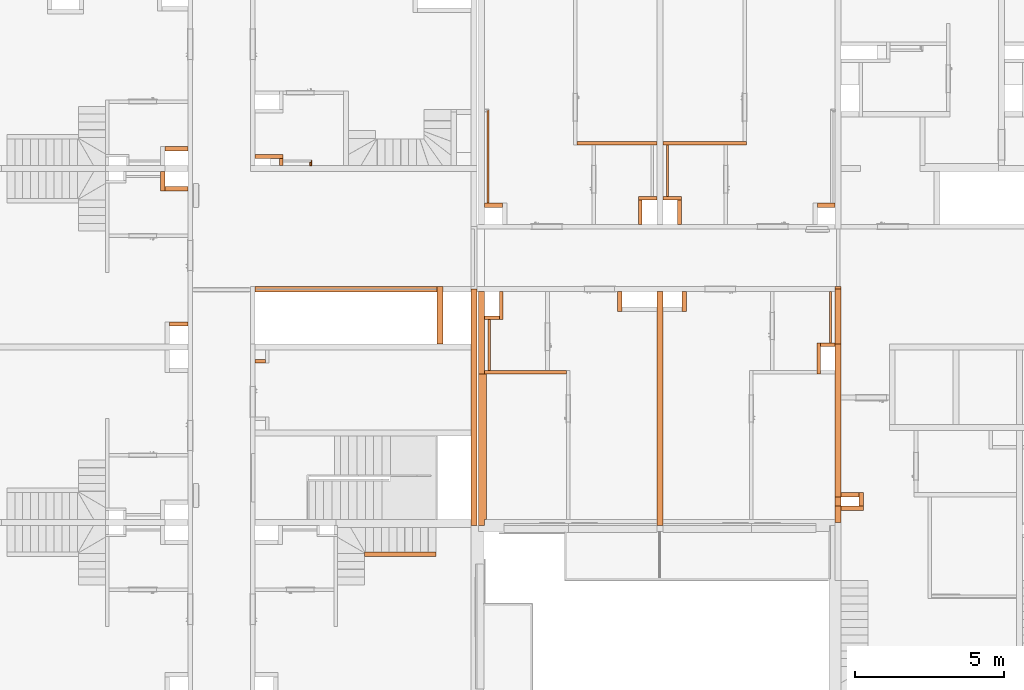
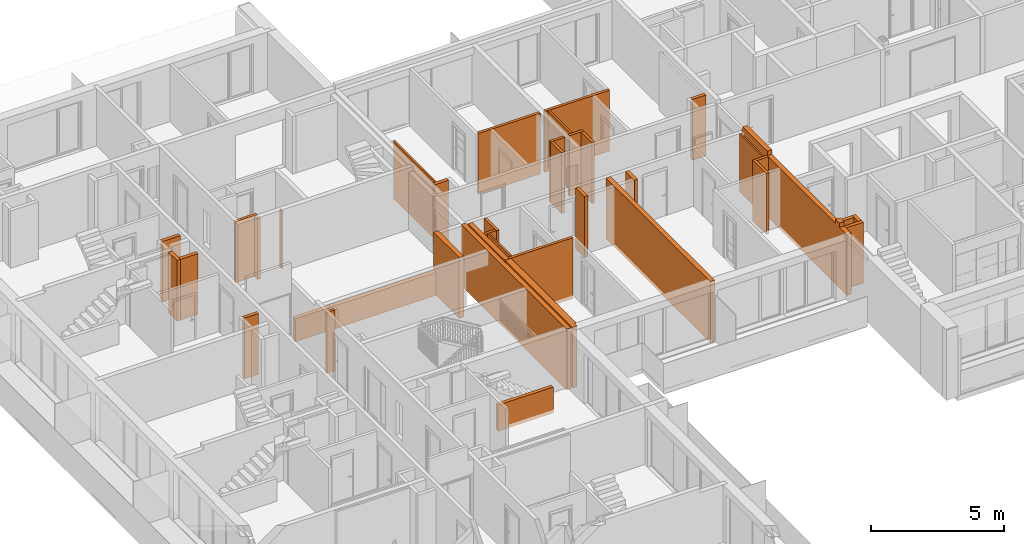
# One storey, part 49 of 61: 38 proxies.
"""IFC2X3 building model written with IfcOpenShell, lengths in millimetres."""

from ifc_helpers import new_model, entity, si_unit, converted_unit, derived_unit, money_unit, direction, frame, origin_with_axes, place, context, subcontext, project, spatial, faceted_brep, material, material_list, type_object, element, save


model = new_model("IFC2X3")

# Units and contexts
model_context = context("Model", 3, precision=0.01, world=origin_with_axes(), true_north=direction((0.34421633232, 0.938890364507)))
body_context = subcontext(model_context, "Body", "Model", "MODEL_VIEW")
ifc_project = project(units=[si_unit("LENGTHUNIT", "METRE", prefix="MILLI"), si_unit("AREAUNIT", "SQUARE_METRE"), si_unit("VOLUMEUNIT", "CUBIC_METRE"), converted_unit("PLANEANGLEUNIT", "DEGREE", entity("IfcPlaneAngleMeasure", 0.0174532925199), si_unit("PLANEANGLEUNIT", "RADIAN"), dimensions=[0, 0, 0, 0, 0, 0, 0]), si_unit("SOLIDANGLEUNIT", "STERADIAN"), money_unit("USD"), converted_unit("TIMEUNIT", "Year", entity("IfcTimeMeasure", 31556926.0), si_unit("TIMEUNIT", "SECOND"), dimensions=[0, 0, 1, 0, 0, 0, 0]), si_unit("MASSUNIT", "GRAM", prefix="KILO"), si_unit("THERMODYNAMICTEMPERATUREUNIT", "DEGREE_CELSIUS"), si_unit("LUMINOUSINTENSITYUNIT", "LUMEN"), si_unit("ENERGYUNIT", "JOULE", prefix="MEGA"), derived_unit("THERMALCONDUCTANCEUNIT", [(si_unit("POWERUNIT", "WATT"), 1), (si_unit("LENGTHUNIT", "METRE"), -1), (si_unit("THERMODYNAMICTEMPERATUREUNIT", "KELVIN"), -1)]), derived_unit("SPECIFICHEATCAPACITYUNIT", [(si_unit("ENERGYUNIT", "JOULE"), 1), (si_unit("MASSUNIT", "GRAM", prefix="KILO"), -1), (si_unit("THERMODYNAMICTEMPERATUREUNIT", "KELVIN"), -1)]), derived_unit("MASSDENSITYUNIT", [(si_unit("MASSUNIT", "GRAM", prefix="KILO"), 1), (si_unit("VOLUMEUNIT", "CUBIC_METRE"), -1)])], contexts=[model_context])

# Site, building, storey
site_placement = place(None, origin_with_axes())
site = spatial("IfcSite", under=ifc_project, at=site_placement, Name="USTRONIE MORSKIE", CompositionType="ELEMENT")
building_placement = place(site_placement, origin_with_axes())
building = spatial("IfcBuilding", under=site, at=building_placement, Name="Budynek", CompositionType="ELEMENT")
storey_placement = place(building_placement, frame((0.0, 0.0, 13000.0), z_axis=(0.0, 0.0, 1.0), x_axis=(1.0, 0.0, 0.0)))
storey = spatial("IfcBuildingStorey", under=building, at=storey_placement, Name="PIĘTRO 4", CompositionType="ELEMENT", Elevation=13000.0)

# Proxies
ifc_material_1 = material(Name="Bloczki silikatowe")
building_element_proxy_type_1 = type_object("IfcBuildingElementProxyType", Name="Bloczki silikatowe 120", PredefinedType="NOTDEFINED")
proxy_1_placement = place(storey_placement, frame((378717.914575, 731951.199132, -160.0), z_axis=(0.0, 0.0, 1.0), x_axis=(3.11484010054e-05, 0.999999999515, 0.0)))
element("IfcBuildingElementProxy", 1, at=proxy_1_placement, inside=storey, type_object=building_element_proxy_type_1, material=ifc_material_1, Name="SW-04", context=body_context, shape_type="Brep", body=[
    faceted_brep([(979.997380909, 0.0, 2800.0), (979.989905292, 120.0, 2800.0), (-60.0037378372, 120.0, 2800.0), (-60.000000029, 0.0, 2800.0), (979.997380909, 0.0, 0.0), (979.989905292, 120.0, 0.0), (-60.0037378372, 120.0, 0.0), (-60.000000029, 0.0, 0.0)], [[[0, 1, 2, 3]], [[1, 0, 4, 5]], [[1, 5, 6, 2]], [[7, 3, 2, 6]], [[4, 0, 3, 7]], [[5, 4, 7, 6]]]),
])
proxy_2_placement = place(storey_placement, frame((372717.920919, 737751.199937, -160.0), z_axis=(0.0, 0.0, 1.0), x_axis=(0.0, -1.0, 0.0)))
element("IfcBuildingElementProxy", 2, at=proxy_2_placement, inside=storey, type_object=building_element_proxy_type_1, material=ifc_material_1, Name="SW-04", context=body_context, shape_type="Brep", body=[
    faceted_brep([(820.00090117, -120.0, 2800.0), (820.00090117, 0.0, 2800.0), (0.0, 0.0, 2800.0), (0.0, -120.0, 2800.0), (820.00090117, -120.0, 0.0), (820.00090117, 0.0, 0.0), (0.0, 0.0, 0.0), (0.0, -120.0, 0.0)], [[[0, 1, 2, 3]], [[1, 0, 4, 5]], [[1, 5, 6, 2]], [[7, 3, 2, 6]], [[4, 0, 3, 7]], [[5, 4, 7, 6]]]),
])
proxy_3_placement = place(storey_placement, frame((359617.920919, 739211.199036, -160.0), z_axis=(0.0, 0.0, 1.0), x_axis=(1.0, 0.0, 0.0)))
element("IfcBuildingElementProxy", 3, at=proxy_3_placement, inside=storey, type_object=building_element_proxy_type_1, material=ifc_material_1, Name="Ściana-009", context=body_context, shape_type="Brep", body=[
    faceted_brep([(1020.00179464, -59.9999999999, 2800.0), (1020.00179464, 59.9999999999, 2800.0), (80.0, 59.9999999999, 2800.0), (80.0, -59.9999999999, 2800.0), (1020.00179464, -59.9999999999, 0.0), (1020.00179464, 59.9999999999, 0.0), (80.0, 59.9999999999, 0.0), (80.0, -59.9999999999, 0.0)], [[[0, 1, 2, 3]], [[1, 0, 4, 5]], [[1, 5, 6, 2]], [[7, 3, 2, 6]], [[4, 0, 3, 7]], [[5, 4, 7, 6]]]),
])
proxy_4_placement = place(storey_placement, frame((373317.920919, 739651.199937, -160.0), z_axis=(0.0, 0.0, 1.0), x_axis=(-1.0, 0.0, 0.0)))
element("IfcBuildingElementProxy", 4, at=proxy_4_placement, inside=storey, type_object=building_element_proxy_type_1, material=ifc_material_1, Name="SW-04", context=body_context, shape_type="Brep", body=[
    faceted_brep([(2790.00713284, -59.9999999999, 2800.0), (2790.00713284, 59.9999999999, 2800.0), (100.0, 59.9999999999, 2800.0), (100.0, -59.9999999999, 2800.0), (2790.00713284, -59.9999999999, 0.0), (2790.00713284, 59.9999999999, 0.0), (100.0, 59.9999999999, 0.0), (100.0, -59.9999999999, 0.0)], [[[0, 1, 2, 3]], [[1, 0, 4, 5]], [[1, 5, 6, 2]], [[7, 3, 2, 6]], [[4, 0, 3, 7]], [[5, 4, 7, 6]]]),
])
proxy_5_placement = place(storey_placement, frame((376167.928052, 739651.199937, -160.0), z_axis=(0.0, 0.0, 1.0), x_axis=(-1.0, 0.0, 0.0)))
element("IfcBuildingElementProxy", 5, at=proxy_5_placement, inside=storey, type_object=building_element_proxy_type_1, material=ifc_material_1, Name="SW-04", context=body_context, shape_type="Brep", body=[
    faceted_brep([(-60.0, -59.9999999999, 0.0), (2750.00713284, -59.9999999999, 0.0), (2750.00713284, -59.9999999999, 2800.0), (-60.0, -59.9999999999, 2800.0), (-60.0, 59.9999999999, 0.0), (2750.00713284, 59.9999999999, 0.0), (2750.00713284, 59.9999999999, 2800.0), (-60.0, 59.9999999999, 2800.0)], [[[0, 1, 2, 3]], [[4, 5, 1, 0]], [[5, 6, 2, 1]], [[3, 2, 6, 7]], [[0, 3, 7, 4]], [[7, 6, 5, 4]]]),
])
proxy_6_placement = place(storey_placement, frame((360577.922714, 739211.199036, -160.0), z_axis=(0.0, 0.0, 1.0), x_axis=(0.0, -1.0, 0.0)))
element("IfcBuildingElementProxy", 6, at=proxy_6_placement, inside=storey, type_object=building_element_proxy_type_1, material=ifc_material_1, Name="Ściana-009", context=body_context, shape_type="Brep", body=[
    faceted_brep([(310.0, -60.0, 2800.0), (310.0, 60.0, 2800.0), (59.9999999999, 60.0, 2800.0), (59.9999999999, -60.0, 2800.0), (310.0, -60.0, 0.0), (310.0, 60.0, 0.0), (59.9999999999, 60.0, 0.0), (59.9999999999, -60.0, 0.0)], [[[0, 1, 2, 3]], [[1, 0, 4, 5]], [[1, 5, 6, 2]], [[7, 3, 2, 6]], [[4, 0, 3, 7]], [[5, 4, 7, 6]]]),
])
proxy_7_placement = place(storey_placement, frame((373917.920919, 737751.199937, -160.0), z_axis=(0.0, 0.0, 1.0), x_axis=(0.0, -1.0, 0.0)))
element("IfcBuildingElementProxy", 7, at=proxy_7_placement, inside=storey, type_object=building_element_proxy_type_1, material=ifc_material_1, Name="SW-04", context=body_context, shape_type="Brep", body=[
    faceted_brep([(820.00090117, 120.0, 0.0), (820.00090117, 0.0, 0.0), (0.0, 0.0, 0.0), (0.0, 120.0, 0.0), (820.00090117, 120.0, 2800.0), (820.00090117, 0.0, 2800.0), (0.0, 0.0, 2800.0), (0.0, 120.0, 2800.0)], [[[0, 1, 2, 3]], [[1, 0, 4, 5]], [[1, 5, 6, 2]], [[7, 3, 2, 6]], [[4, 0, 3, 7]], [[5, 4, 7, 6]]]),
])
proxy_8_placement = place(storey_placement, frame((373317.920919, 737751.199937, -160.0), z_axis=(0.0, 0.0, 1.0), x_axis=(-1.0, 0.0, 0.0)))
element("IfcBuildingElementProxy", 8, at=proxy_8_placement, inside=storey, type_object=building_element_proxy_type_1, material=ifc_material_1, Name="SW-04", context=body_context, shape_type="Brep", body=[
    faceted_brep([(720.0, 0.0, 2800.0), (100.0, 0.0, 2800.0), (100.0, -120.0, 2800.0), (720.0, -120.0, 2800.0), (720.0, 0.0, 0.0), (100.0, 0.0, 0.0), (100.0, -120.0, 0.0), (720.0, -120.0, 0.0)], [[[0, 1, 2, 3]], [[4, 5, 1, 0]], [[5, 6, 2, 1]], [[3, 2, 6, 7]], [[7, 4, 0, 3]], [[7, 6, 5, 4]]]),
])
proxy_9_placement = place(storey_placement, frame((367317.920919, 731951.199132, -160.0), z_axis=(0.0, 0.0, 1.0), x_axis=(1.0, 0.0, 0.0)))
element("IfcBuildingElementProxy", 9, at=proxy_9_placement, inside=storey, type_object=building_element_proxy_type_1, material=ifc_material_1, Name="SW-04", context=body_context, shape_type="Brep", body=[
    faceted_brep([(2860.01935038, -59.9999999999, 2800.0), (2860.01935038, 59.9999999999, 2800.0), (99.9999999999, 59.9999999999, 2800.0), (99.9999999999, -59.9999999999, 2800.0), (2860.01935038, -59.9999999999, 0.0), (2860.01935038, 59.9999999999, 0.0), (99.9999999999, 59.9999999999, 0.0), (99.9999999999, -59.9999999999, 0.0)], [[[0, 1, 2, 3]], [[1, 0, 4, 5]], [[1, 5, 6, 2]], [[7, 3, 2, 6]], [[4, 0, 3, 7]], [[5, 4, 7, 6]]]),
])
proxy_10_placement = place(storey_placement, frame((373317.920919, 737751.199937, -160.0), z_axis=(0.0, 0.0, 1.0), x_axis=(1.0, 0.0, 0.0)))
element("IfcBuildingElementProxy", 10, at=proxy_10_placement, inside=storey, type_object=building_element_proxy_type_1, material=ifc_material_1, Name="SW-04", context=body_context, shape_type="Brep", body=[
    faceted_brep([(720.0, 120.0, 0.0), (720.0, 0.0, 0.0), (100.0, 0.0, 0.0), (100.0, 120.0, 0.0), (720.0, 120.0, 2800.0), (720.0, 0.0, 2800.0), (100.0, 0.0, 2800.0), (100.0, 120.0, 2800.0)], [[[0, 1, 2, 3]], [[1, 0, 4, 5]], [[1, 5, 6, 2]], [[7, 3, 2, 6]], [[4, 0, 3, 7]], [[5, 4, 7, 6]]]),
])
proxy_11_placement = place(storey_placement, frame((367917.928509, 734751.199036, -160.0), z_axis=(0.0, 0.0, 1.0), x_axis=(-3.11484010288e-05, -0.999999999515, 0.0)))
element("IfcBuildingElementProxy", 11, at=proxy_11_placement, inside=storey, type_object=building_element_proxy_type_1, material=ifc_material_1, Name="SW-04", context=body_context, shape_type="Brep", body=[
    faceted_brep([(1019.99738093, 0.0, 2800.0), (1019.98990531, 120.0, 2800.0), (79.9962622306, 120.0, 2800.0), (80.0000000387, 0.0, 2800.0), (1019.99738093, 0.0, 0.0), (1019.98990531, 120.0, 0.0), (79.9962622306, 120.0, 0.0), (80.0000000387, 0.0, 0.0)], [[[0, 1, 2, 3]], [[1, 0, 4, 5]], [[1, 5, 6, 2]], [[7, 3, 2, 6]], [[4, 0, 3, 7]], [[5, 4, 7, 6]]]),
])
for number, where, z_axis, x_axis, name in (
    (12, (367317.920919, 733851.182968, -160.0), (0.0, 0.0, 1.0), (0.999999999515, 3.11484020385e-05, 0.0), "SW-04"),
    (13, (379317.920919, 732811.215201, -160.0), (0.0, 0.0, 1.0), (-0.999999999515, -3.11484020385e-05, 0.0), "SW-04"),
):
    element("IfcBuildingElementProxy", number, at=place(storey_placement, frame(where, z_axis=z_axis, x_axis=x_axis)), inside=storey, type_object=building_element_proxy_type_1, material=ifc_material_1, Name=name, context=body_context, shape_type="Brep", body=[
        faceted_brep([(599.979556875, 1.13686837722e-10, 0.0), (599.972081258, -120.0, 0.0), (99.9962622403, -120.0, 0.0), (100.000000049, 1.13686837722e-10, 0.0), (599.979556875, 1.13686837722e-10, 2800.0), (599.972081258, -120.0, 2800.0), (99.9962622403, -120.0, 2800.0), (100.000000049, 1.13686837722e-10, 2800.0)], [[[0, 1, 2, 3]], [[1, 0, 4, 5]], [[1, 5, 6, 2]], [[7, 3, 2, 6]], [[4, 0, 3, 7]], [[5, 4, 7, 6]]]),
    ])
proxy_12_placement = place(storey_placement, frame((360047.920919, 732381.198997, -160.0), z_axis=(0.0, 0.0, 1.0), x_axis=(-1.0, 0.0, 0.0)))
element("IfcBuildingElementProxy", 14, at=proxy_12_placement, inside=storey, type_object=building_element_proxy_type_1, material=ifc_material_1, Name="SW-04", context=body_context, shape_type="Brep", body=[
    faceted_brep([(350.0, 120.0, 0.0), (350.0, 0.0, 0.0), (0.0, 0.0, 0.0), (0.0, 120.0, 0.0), (350.0, 120.0, 2800.0), (350.0, 0.0, 2800.0), (0.0, 0.0, 2800.0), (0.0, 120.0, 2800.0)], [[[0, 1, 2, 3]], [[1, 0, 4, 5]], [[1, 5, 6, 2]], [[7, 3, 2, 6]], [[4, 0, 3, 7]], [[5, 4, 7, 6]]]),
])
building_element_proxy_type_2 = type_object("IfcBuildingElementProxyType", Name="Bloczki silikatowe 180", PredefinedType="NOTDEFINED")
proxy_13_placement = place(storey_placement, frame((365817.926125, 734741.198985, -160.0), z_axis=(0.0, 0.0, 1.0), x_axis=(-1.0, 0.0, 0.0)))
element("IfcBuildingElementProxy", 15, at=proxy_13_placement, inside=storey, type_object=building_element_proxy_type_2, material=ifc_material_1, Name="SW-02", context=body_context, shape_type="Brep", body=[
    faceted_brep([(6120.00520575, 90.0, 0.0), (6120.00520575, -90.0, 0.0), (0.0, -90.0, 0.0), (0.0, 90.0, 0.0), (6120.00520575, 90.0, 1060.0), (6120.00520575, -90.0, 1060.0), (0.0, -90.0, 1060.0), (0.0, 90.0, 1060.0)], [[[0, 1, 2, 3]], [[1, 0, 4, 5]], [[1, 5, 6, 2]], [[7, 3, 2, 6]], [[4, 0, 3, 7]], [[5, 4, 7, 6]]]),
])
ifc_material_2 = material(Name="-Pustka powietrzna")
ifc_material_3 = material(Name="Płyta GK")
ifc_material_list_1 = material_list([ifc_material_2, ifc_material_3, ifc_material_3])
building_element_proxy_type_3 = type_object("IfcBuildingElementProxyType", Name="330-SD GK 2-warstwy 75", PredefinedType="NOTDEFINED")
proxy_14_placement = place(storey_placement, frame((367547.898487, 737501.202288, -180.0), z_axis=(0.0, 0.0, 1.0), x_axis=(1.16660687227e-07, 1.0, 0.0)))
element("IfcBuildingElementProxy", 16, at=proxy_14_placement, inside=storey, type_object=building_element_proxy_type_3, material=ifc_material_list_1, Name="Ściana-009", context=body_context, shape_type="Brep", body=[
    faceted_brep([(150.0, 0.0, 180.0), (3270.0, 0.0, 180.0), (3270.0, 0.0, 2820.0), (150.0, 0.0, 2820.0), (3269.99999417, 50.0000000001, 180.0), (149.999994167, 50.0000000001, 180.0), (3269.99999417, 50.0000000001, 2820.0), (149.999994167, 50.0000000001, 2820.0)], [[[0, 1, 2, 3]], [[4, 1, 0, 5]], [[1, 4, 6, 2]], [[6, 7, 3, 2]], [[5, 0, 3, 7]], [[4, 5, 7, 6]]]),
    faceted_brep([(150.000001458, -12.4999999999, 165.0), (3282.50000146, -12.4999999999, 165.0), (3282.50000146, -12.4999999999, 2820.0), (150.000001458, -12.4999999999, 2820.0), (3282.50000001, 0.0, 165.0), (150.0, 1.13686837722e-10, 165.0), (3282.50000001, 0.0, 2820.0), (150.0, 0.0, 2820.0)], [[[0, 1, 2, 3]], [[4, 1, 0, 5]], [[1, 4, 6, 2]], [[6, 7, 3, 2]], [[5, 0, 3, 7]], [[4, 5, 7, 6]]]),
    faceted_brep([(150.000002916, -24.9999999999, 165.0), (3295.00000292, -25.0, 165.0), (3295.00000292, -25.0, 2820.0), (150.000002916, -24.9999999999, 2820.0), (3295.00000146, -12.4999999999, 165.0), (150.000001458, -12.4999999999, 165.0), (3295.00000146, -12.4999999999, 2820.0), (150.000001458, -12.4999999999, 2820.0)], [[[0, 1, 2, 3]], [[4, 1, 0, 5]], [[1, 4, 6, 2]], [[6, 7, 3, 2]], [[5, 0, 3, 7]], [[4, 5, 7, 6]]]),
])
ifc_material_list_2 = material_list([ifc_material_3, ifc_material_3, ifc_material_2])
proxy_15_placement = place(storey_placement, frame((379072.933272, 732811.206636, -160.0), z_axis=(0.0, 0.0, 1.0), x_axis=(0.0, 1.0, 0.0)))
element("IfcBuildingElementProxy", 17, at=proxy_15_placement, inside=storey, type_object=building_element_proxy_type_3, material=ifc_material_list_2, Name="Ściana-009", context=body_context, shape_type="Brep", body=[
    faceted_brep([(119.999766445, 37.5, 145.0), (1859.99240044, 37.5, 145.0), (1859.99240044, 37.5, 2800.0), (119.999766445, 37.5, 2800.0), (1859.99240044, 50.0, 145.0), (119.99937709, 50.0, 145.0), (1859.99240044, 50.0, 2800.0), (119.99937709, 50.0, 2800.0)], [[[0, 1, 2, 3]], [[4, 1, 0, 5]], [[1, 4, 6, 2]], [[2, 6, 7, 3]], [[5, 0, 3, 7]], [[4, 5, 7, 6]]]),
    faceted_brep([(120.0001558, 25.0, 145.0), (1859.99240044, 25.0, 145.0), (1859.99240044, 25.0, 2800.0), (120.0001558, 25.0, 2800.0), (1859.99240044, 37.5, 145.0), (119.999766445, 37.5, 145.0), (1859.99240044, 37.5, 2800.0), (119.999766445, 37.5, 2800.0)], [[[0, 1, 2, 3]], [[4, 1, 0, 5]], [[1, 4, 6, 2]], [[2, 6, 7, 3]], [[5, 0, 3, 7]], [[4, 5, 7, 6]]]),
    faceted_brep([(120.00171322, -25.0, 160.0), (1859.99240044, -25.0, 160.0), (1859.99240044, -25.0, 2800.0), (120.00171322, -25.0, 2800.0), (1859.99240044, 25.0, 160.0), (120.0001558, 25.0, 160.0), (1859.99240044, 25.0, 2800.0), (120.0001558, 25.0, 2800.0)], [[[0, 1, 2, 3]], [[4, 1, 0, 5]], [[1, 4, 6, 2]], [[2, 6, 7, 3]], [[5, 0, 3, 7]], [[4, 5, 7, 6]]]),
])
proxy_16_placement = place(storey_placement, frame((373562.908566, 739651.199937, -180.0), z_axis=(0.0, 0.0, 1.0), x_axis=(0.0, -1.0, 0.0)))
element("IfcBuildingElementProxy", 18, at=proxy_16_placement, inside=storey, type_object=building_element_proxy_type_3, material=ifc_material_list_2, Name="Ściana-009", context=body_context, shape_type="Brep", body=[
    faceted_brep([(1780.0, 50.0, 165.0), (59.9999999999, 50.0, 165.0), (59.9999999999, 50.0, 2820.0), (1780.0, 50.0, 2820.0), (59.9999999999, 37.5, 165.0), (1780.0, 37.5, 165.0), (59.9999999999, 37.5, 2820.0), (1780.0, 37.5, 2820.0)], [[[0, 1, 2, 3]], [[4, 1, 0, 5]], [[1, 4, 6, 2]], [[6, 7, 3, 2]], [[5, 0, 3, 7]], [[4, 5, 7, 6]]]),
    faceted_brep([(1780.0, 37.5, 165.0), (59.9999999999, 37.5, 165.0), (59.9999999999, 37.5, 2820.0), (1780.0, 37.5, 2820.0), (59.9999999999, 25.0, 165.0), (1780.0, 25.0, 165.0), (59.9999999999, 25.0, 2820.0), (1780.0, 25.0, 2820.0)], [[[0, 1, 2, 3]], [[4, 1, 0, 5]], [[1, 4, 6, 2]], [[6, 7, 3, 2]], [[5, 0, 3, 7]], [[4, 5, 7, 6]]]),
    faceted_brep([(1780.0, 25.0, 180.0), (59.9999999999, 25.0, 180.0), (59.9999999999, 25.0, 2820.0), (1780.0, 25.0, 2820.0), (59.9999999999, -25.0, 180.0), (1780.0, -25.0, 180.0), (59.9999999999, -25.0, 2820.0), (1780.0, -25.0, 2820.0)], [[[0, 1, 2, 3]], [[4, 1, 0, 5]], [[1, 4, 6, 2]], [[6, 7, 3, 2]], [[5, 0, 3, 7]], [[4, 5, 7, 6]]]),
])
proxy_17_placement = place(storey_placement, frame((367562.908566, 733851.191533, -160.0), z_axis=(0.0, 0.0, 1.0), x_axis=(0.0, -1.0, 0.0)))
element("IfcBuildingElementProxy", 19, at=proxy_17_placement, inside=storey, type_object=building_element_proxy_type_3, material=ifc_material_list_2, Name="Ściana-009", context=body_context, shape_type="Brep", body=[
    faceted_brep([(1839.99240044, 50.0, 145.0), (119.99937709, 50.0, 145.0), (119.99937709, 50.0, 2800.0), (1839.99240044, 50.0, 2800.0), (119.999766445, 37.5, 145.0), (1839.99240044, 37.5, 145.0), (119.999766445, 37.5, 2800.0), (1839.99240044, 37.5, 2800.0)], [[[0, 1, 2, 3]], [[4, 1, 0, 5]], [[1, 4, 6, 2]], [[7, 3, 2, 6]], [[5, 0, 3, 7]], [[4, 5, 7, 6]]]),
    faceted_brep([(1839.99240044, 37.5, 145.0), (119.999766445, 37.5, 145.0), (119.999766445, 37.5, 2800.0), (1839.99240044, 37.5, 2800.0), (120.0001558, 25.0, 145.0), (1839.99240044, 25.0, 145.0), (120.0001558, 25.0, 2800.0), (1839.99240044, 25.0, 2800.0)], [[[0, 1, 2, 3]], [[4, 1, 0, 5]], [[1, 4, 6, 2]], [[7, 3, 2, 6]], [[5, 0, 3, 7]], [[4, 5, 7, 6]]]),
    faceted_brep([(1839.99240044, 25.0, 160.0), (120.0001558, 25.0, 160.0), (120.0001558, 25.0, 2800.0), (1839.99240044, 25.0, 2800.0), (120.00171322, -25.0, 160.0), (1839.99240044, -25.0, 160.0), (120.00171322, -25.0, 2800.0), (1839.99240044, -25.0, 2800.0)], [[[0, 1, 2, 3]], [[4, 1, 0, 5]], [[1, 4, 6, 2]], [[7, 3, 2, 6]], [[5, 0, 3, 7]], [[4, 5, 7, 6]]]),
])
proxy_18_placement = place(storey_placement, frame((361587.922714, 739071.198488, -180.0), z_axis=(0.0, 0.0, 1.0), x_axis=(0.0, -1.0, 0.0)))
element("IfcBuildingElementProxy", 20, at=proxy_18_placement, inside=storey, type_object=building_element_proxy_type_3, material=ifc_material_list_2, Name="Ściana-009", context=body_context, shape_type="Brep", body=[
    faceted_brep([(169.99945214, 25.0, 165.0), (-12.5, 25.0, 165.0), (-12.5, 25.0, 2820.0), (169.99945214, 25.0, 2820.0), (-12.5, 12.5, 165.0), (169.99945214, 12.5, 165.0), (-12.5, 12.5, 2820.0), (169.99945214, 12.5, 2820.0)], [[[0, 1, 2, 3]], [[4, 1, 0, 5]], [[1, 4, 6, 2]], [[7, 3, 2, 6]], [[5, 0, 3, 7]], [[4, 5, 7, 6]]]),
    faceted_brep([(169.99945214, 12.5, 165.0), (0.0, 12.5, 165.0), (0.0, 12.5, 2820.0), (169.99945214, 12.5, 2820.0), (0.0, 0.0, 165.0), (169.99945214, 0.0, 165.0), (0.0, 0.0, 2820.0), (169.99945214, 0.0, 2820.0)], [[[0, 1, 2, 3]], [[4, 1, 0, 5]], [[1, 4, 6, 2]], [[7, 3, 2, 6]], [[5, 0, 3, 7]], [[4, 5, 7, 6]]]),
    faceted_brep([(169.99945214, 0.0, 180.0), (50.0, 0.0, 180.0), (50.0, 0.0, 2820.0), (169.99945214, 0.0, 2820.0), (50.0, -50.0, 180.0), (169.99945214, -50.0, 180.0), (50.0, -50.0, 2820.0), (169.99945214, -50.0, 2820.0)], [[[0, 1, 2, 3]], [[4, 1, 0, 5]], [[1, 4, 6, 2]], [[7, 3, 2, 6]], [[5, 0, 3, 7]], [[4, 5, 7, 6]]]),
])
building_element_proxy_type_4 = type_object("IfcBuildingElementProxyType", Name="Bloczki silikatowe 150", PredefinedType="NOTDEFINED")
proxy_19_placement = place(storey_placement, frame((356817.920919, 733501.199036, -160.0), z_axis=(0.0, 0.0, 1.0), x_axis=(1.0, 0.0, 0.0)))
element("IfcBuildingElementProxy", 21, at=proxy_19_placement, inside=storey, type_object=building_element_proxy_type_4, material=ifc_material_1, Name="SW-03", context=body_context, shape_type="Brep", body=[
    faceted_brep([(620.0, 150.0, 0.0), (620.0, 0.0, 0.0), (0.0, 0.0, 0.0), (0.0, 150.0, 0.0), (620.0, 150.0, 2800.0), (620.0, 0.0, 2800.0), (0.0, 0.0, 2800.0), (0.0, 150.0, 2800.0)], [[[0, 1, 2, 3]], [[1, 0, 4, 5]], [[1, 5, 6, 2]], [[7, 3, 2, 6]], [[4, 0, 3, 7]], [[5, 4, 7, 6]]]),
])
proxy_20_placement = place(storey_placement, frame((378617.937739, 737501.202288, -160.0), z_axis=(0.0, 0.0, 1.0), x_axis=(1.0, 0.0, 0.0)))
element("IfcBuildingElementProxy", 22, at=proxy_20_placement, inside=storey, type_object=building_element_proxy_type_4, material=ifc_material_1, Name="SW-03", context=body_context, shape_type="Brep", body=[
    faceted_brep([(599.983179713, 0.0, 2800.0), (599.983179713, 150.0, 2800.0), (0.0, 150.0, 2800.0), (0.0, 0.0, 2800.0), (599.983179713, 0.0, 0.0), (599.983179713, 150.0, 0.0), (0.0, 150.0, 0.0), (0.0, 0.0, 0.0)], [[[0, 1, 2, 3]], [[1, 0, 4, 5]], [[1, 5, 6, 2]], [[7, 3, 2, 6]], [[4, 0, 3, 7]], [[5, 4, 7, 6]]]),
])
proxy_21_placement = place(storey_placement, frame((356592.920018, 738126.197761, -160.0), z_axis=(0.0, 0.0, 1.0), x_axis=(1.0, 0.0, 0.0)))
element("IfcBuildingElementProxy", 23, at=proxy_21_placement, inside=storey, type_object=building_element_proxy_type_4, material=ifc_material_1, Name="SW-03", context=body_context, shape_type="Brep", body=[
    faceted_brep([(845.00090117, -75.0, 2800.0), (845.00090117, 75.0, 2800.0), (75.0, 75.0, 2800.0), (75.0, -75.0, 2800.0), (845.00090117, -75.0, 0.0), (845.00090117, 75.0, 0.0), (75.0, 75.0, 0.0), (75.0, -75.0, 0.0)], [[[0, 1, 2, 3]], [[1, 0, 4, 5]], [[1, 5, 6, 2]], [[7, 3, 2, 6]], [[4, 0, 3, 7]], [[5, 4, 7, 6]]]),
])
proxy_22_placement = place(storey_placement, frame((380017.92182, 727826.199036, -160.0), z_axis=(0.0, 0.0, 1.0), x_axis=(-1.0, 0.0, 0.0)))
element("IfcBuildingElementProxy", 24, at=proxy_22_placement, inside=storey, type_object=building_element_proxy_type_4, material=ifc_material_1, Name="SW-03", context=body_context, shape_type="Brep", body=[
    faceted_brep([(600.00090117, 75.0, 0.0), (600.00090117, -75.0, 0.0), (0.0, -75.0, 0.0), (0.0, 75.0, 0.0), (600.00090117, 75.0, 2800.0), (600.00090117, -75.0, 2800.0), (0.0, -75.0, 2800.0), (0.0, 75.0, 2800.0)], [[[0, 1, 2, 3]], [[1, 0, 4, 5]], [[1, 5, 6, 2]], [[7, 3, 2, 6]], [[4, 0, 3, 7]], [[5, 4, 7, 6]]]),
])
proxy_23_placement = place(storey_placement, frame((380017.92182, 727451.199036, -160.0), z_axis=(0.0, 0.0, 1.0), x_axis=(0.0, 1.0, 0.0)))
element("IfcBuildingElementProxy", 25, at=proxy_23_placement, inside=storey, type_object=building_element_proxy_type_4, material=ifc_material_1, Name="SW-03", context=body_context, shape_type="Brep", body=[
    faceted_brep([(450.0, -150.0, 2800.0), (450.0, 0.0, 2800.0), (0.0, 0.0, 2800.0), (0.0, -150.0, 2800.0), (450.0, -150.0, 0.0), (450.0, 0.0, 0.0), (0.0, 0.0, 0.0), (0.0, -150.0, 0.0)], [[[0, 1, 2, 3]], [[1, 0, 4, 5]], [[1, 5, 6, 2]], [[7, 3, 2, 6]], [[4, 0, 3, 7]], [[5, 4, 7, 6]]]),
])
proxy_24_placement = place(storey_placement, frame((379317.920919, 727451.199036, -160.0), z_axis=(0.0, 0.0, 1.0), x_axis=(1.0, 0.0, 0.0)))
element("IfcBuildingElementProxy", 26, at=proxy_24_placement, inside=storey, type_object=building_element_proxy_type_4, material=ifc_material_1, Name="SW-03", context=body_context, shape_type="Brep", body=[
    faceted_brep([(850.00090117, -150.0, 2800.0), (850.00090117, 0.0, 2800.0), (100.0, 0.0, 2800.0), (100.0, -150.0, 2800.0), (850.00090117, -150.0, 0.0), (850.00090117, 0.0, 0.0), (100.0, 0.0, 0.0), (100.0, -150.0, 0.0)], [[[0, 1, 2, 3]], [[1, 0, 4, 5]], [[1, 5, 6, 2]], [[7, 3, 2, 6]], [[4, 0, 3, 7]], [[5, 4, 7, 6]]]),
])
proxy_25_placement = place(storey_placement, frame((363377.920919, 725826.243277, -160.0), z_axis=(0.0, 0.0, 1.0), x_axis=(1.0, 0.0, 0.0)))
element("IfcBuildingElementProxy", 27, at=proxy_25_placement, inside=storey, type_object=building_element_proxy_type_4, material=ifc_material_1, Name="SW-03", context=body_context, shape_type="Brep", body=[
    faceted_brep([(0.0, -75.0, 1200.0), (2410.0, -75.0, 1200.0), (2410.0, 75.0, 1200.0), (0.0, 75.0, 1200.0), (0.0, -75.0, 0.0), (2410.0, -75.0, 0.0), (2410.0, 75.0, 0.0), (0.0, 75.0, 0.0)], [[[0, 1, 2, 3]], [[4, 5, 1, 0]], [[2, 1, 5, 6]], [[3, 2, 6, 7]], [[4, 0, 3, 7]], [[7, 6, 5, 4]]]),
])
proxy_26_placement = place(storey_placement, frame((368017.903884, 737501.202288, -160.0), z_axis=(0.0, 0.0, 1.0), x_axis=(-1.0, 0.0, 0.0)))
element("IfcBuildingElementProxy", 28, at=proxy_26_placement, inside=storey, type_object=building_element_proxy_type_4, material=ifc_material_1, Name="SW-03", context=body_context, shape_type="Brep", body=[
    faceted_brep([(599.982965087, 0.0, 0.0), (599.982965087, -150.0, 0.0), (0.00467226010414, -150.0, 0.0), (0.0, 0.0, 0.0), (599.982965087, 0.0, 2800.0), (599.982965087, -150.0, 2800.0), (0.00467226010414, -150.0, 2800.0), (0.0, 0.0, 2800.0)], [[[0, 1, 2, 3]], [[1, 0, 4, 5]], [[1, 5, 6, 2]], [[7, 3, 2, 6]], [[4, 0, 3, 7]], [[5, 4, 7, 6]]]),
])
proxy_27_placement = place(storey_placement, frame((356592.920018, 739476.199519, -160.0), z_axis=(0.0, 0.0, 1.0), x_axis=(1.0, 0.0, 0.0)))
element("IfcBuildingElementProxy", 29, at=proxy_27_placement, inside=storey, type_object=building_element_proxy_type_4, material=ifc_material_1, Name="SW-03", context=body_context, shape_type="Brep", body=[
    faceted_brep([(845.00090117, 75.0, 0.0), (845.00090117, -75.0, 0.0), (75.0, -75.0, 0.0), (75.0, 75.0, 0.0), (845.00090117, 75.0, 2800.0), (845.00090117, -75.0, 2800.0), (75.0, -75.0, 2800.0), (75.0, 75.0, 2800.0)], [[[0, 1, 2, 3]], [[1, 0, 4, 5]], [[1, 5, 6, 2]], [[7, 3, 2, 6]], [[4, 0, 3, 7]], [[5, 4, 7, 6]]]),
])
proxy_28_placement = place(storey_placement, frame((374067.920919, 734751.201178, -160.0), z_axis=(0.0, 0.0, 1.0), x_axis=(0.0, -1.0, 0.0)))
element("IfcBuildingElementProxy", 30, at=proxy_28_placement, inside=storey, type_object=building_element_proxy_type_4, material=ifc_material_1, Name="SW-03", context=body_context, shape_type="Brep", body=[
    faceted_brep([(749.999293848, 0.0, 2800.0), (749.999293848, 150.0, 2800.0), (80.0021420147, 150.0, 2800.0), (80.0021420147, 0.0, 2800.0), (749.999293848, 0.0, 0.0), (749.999293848, 150.0, 0.0), (80.0021420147, 150.0, 0.0), (80.0021420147, 0.0, 0.0)], [[[0, 1, 2, 3]], [[1, 0, 4, 5]], [[1, 5, 6, 2]], [[7, 3, 2, 6]], [[4, 0, 3, 7]], [[5, 4, 7, 6]]]),
])
proxy_29_placement = place(storey_placement, frame((372047.920919, 734751.200744, -160.0), z_axis=(0.0, 0.0, 1.0), x_axis=(0.0, -1.0, 0.0)))
element("IfcBuildingElementProxy", 31, at=proxy_29_placement, inside=storey, type_object=building_element_proxy_type_4, material=ifc_material_1, Name="SW-03", context=body_context, shape_type="Brep", body=[
    faceted_brep([(749.998859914, 0.0, 0.0), (749.998859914, -150.0, 0.0), (80.0017080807, -150.0, 0.0), (80.0017080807, 0.0, 0.0), (749.998859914, 0.0, 2800.0), (749.998859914, -150.0, 2800.0), (80.0017080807, -150.0, 2800.0), (80.0017080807, 0.0, 2800.0)], [[[0, 1, 2, 3]], [[1, 0, 4, 5]], [[1, 5, 6, 2]], [[7, 3, 2, 6]], [[4, 0, 3, 7]], [[5, 4, 7, 6]]]),
])
proxy_30_placement = place(storey_placement, frame((356592.920018, 738801.198641, -160.0), z_axis=(0.0, 0.0, 1.0), x_axis=(0.0, -1.0, 0.0)))
element("IfcBuildingElementProxy", 32, at=proxy_30_placement, inside=storey, type_object=building_element_proxy_type_4, material=ifc_material_1, Name="SW-03", context=body_context, shape_type="Brep", body=[
    faceted_brep([(750.000879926, -75.0, 2800.0), (750.000879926, 75.0, 2800.0), (99.9997275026, 75.0, 2800.0), (99.9994852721, -75.0, 2800.0), (750.000879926, -75.0, 0.0), (750.000879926, 75.0, 0.0), (99.9997275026, 75.0, 0.0), (99.9994852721, -75.0, 0.0)], [[[0, 1, 2, 3]], [[1, 0, 4, 5]], [[1, 5, 6, 2]], [[7, 3, 2, 6]], [[4, 0, 3, 7]], [[5, 4, 7, 6]]]),
])
ifc_material_4 = material(Name="Beton konstrukcyjny B25")
building_element_proxy_type_5 = type_object("IfcBuildingElementProxyType", Name="Beton konstrukcyjny B25 200", PredefinedType="NOTDEFINED")
proxy_31_placement = place(storey_placement, frame((379317.920919, 726901.199036, -160.0), z_axis=(0.0, 0.0, 1.0), x_axis=(0.0, 1.0, 0.0)))
element("IfcBuildingElementProxy", 33, at=proxy_31_placement, inside=storey, type_object=building_element_proxy_type_5, material=ifc_material_4, Name="SW-01", context=body_context, shape_type="Brep", body=[
    faceted_brep([(7850.0, 100.0, 3000.0), (5999.99994704, 100.000078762, 3000.0), (5999.99994709, -100.0, 3000.0), (7850.0, -100.0, 3000.0), (850.0, 100.0, 2800.0), (5999.99994704, 100.000078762, 2800.0), (7850.0, 100.0, 2800.0), (7930.0, 100.0, 2800.0), (7930.0, 100.0, 0.0), (0.0, 100.0, 0.0), (0.0, 100.0000184, 2800.0), (550.000000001, 100.0, 2800.0), (550.000000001, 100.0, 3000.0), (850.0, 100.0, 3000.0), (5999.99994709, -100.0, 2800.0), (850.0, -100.0, 2800.0), (850.0, -100.0, 3000.0), (550.000000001, -100.0, 3000.0), (550.000000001, -100.0, 2800.0), (0.0, -100.0, 2800.0), (0.0, -100.0, 0.0), (7930.0, -100.0, 0.0), (7930.0, -100.0, 2800.0), (7850.0, -100.0, 2800.0)], [[[0, 1, 2, 3]], [[4, 5, 1, 0, 6, 7, 8, 9, 10, 11, 12, 13]], [[5, 14, 2, 1]], [[14, 15, 16, 17, 18, 19, 20, 21, 22, 23, 3, 2]], [[3, 23, 6, 0]], [[4, 15, 14, 5]], [[7, 6, 23, 22]], [[22, 21, 8, 7]], [[21, 20, 9, 8]], [[20, 19, 10, 9]], [[10, 19, 18, 11]], [[11, 18, 17, 12]], [[17, 16, 13, 12]], [[4, 13, 16, 15]]]),
])
proxy_32_placement = place(storey_placement, frame((367067.920963, 726801.199036, -160.0), z_axis=(0.0, 0.0, 1.0), x_axis=(1.19303182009e-08, 1.0, 0.0)))
element("IfcBuildingElementProxy", 34, at=proxy_32_placement, inside=storey, type_object=building_element_proxy_type_5, material=ifc_material_4, Name="SW-01", context=body_context, shape_type="Brep", body=[
    faceted_brep([(7949.99999881, 100.000094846, 0.0), (7949.99999881, 100.000094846, 2800.0), (7950.00000119, -99.999905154, 2800.0), (7950.00000119, -99.999905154, 0.0), (-1.19302967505e-06, 100.0, 0.0), (-1.19302967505e-06, 100.0, 2800.0), (1.19302967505e-06, -100.0, 2800.0), (1.19302967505e-06, -100.0, 0.0)], [[[0, 1, 2, 3]], [[4, 5, 1, 0]], [[5, 6, 2, 1]], [[3, 2, 6, 7]], [[0, 3, 7, 4]], [[7, 6, 5, 4]]]),
])
proxy_33_placement = place(storey_placement, frame((373317.920919, 726901.199036, -160.0), z_axis=(0.0, 0.0, 1.0), x_axis=(0.0, 1.0, 0.0)))
element("IfcBuildingElementProxy", 35, at=proxy_33_placement, inside=storey, type_object=building_element_proxy_type_5, material=ifc_material_4, Name="SW-01", context=body_context, shape_type="Brep", body=[
    faceted_brep([(-100.0, 100.0, 0.0), (7770.0, 100.0, 0.0), (7770.0, -100.0, 0.0), (-100.0, -100.0, 0.0), (-100.0, 100.0, 2800.0), (7770.0, 100.0, 2800.0), (7770.0, -100.0, 2800.0), (-100.0, -100.0, 2800.0)], [[[0, 1, 2, 3]], [[4, 5, 1, 0]], [[6, 2, 1, 5]], [[3, 2, 6, 7]], [[7, 4, 0, 3]], [[7, 6, 5, 4]]]),
])
proxy_34_placement = place(storey_placement, frame((365917.915888, 732801.199036, -160.0), z_axis=(0.0, 0.0, 1.0), x_axis=(5.04278977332e-06, 0.999999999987, 0.0)))
element("IfcBuildingElementProxy", 36, at=proxy_34_placement, inside=storey, type_object=building_element_proxy_type_5, material=ifc_material_4, Name="SW-01", context=body_context, shape_type="Brep", body=[
    faceted_brep([(2029.99949575, 100.0, 0.0), (2030.00050431, -100.0, 0.0), (100.00050428, -100.0, 0.0), (99.9994957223, 100.0, 0.0), (2029.99949575, 100.0, 2800.0), (2030.00050431, -100.0, 2800.0), (100.00050428, -100.0, 2800.0), (99.9994957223, 100.0, 2800.0)], [[[0, 1, 2, 3]], [[1, 0, 4, 5]], [[1, 5, 6, 2]], [[7, 3, 2, 6]], [[4, 0, 3, 7]], [[5, 4, 7, 6]]]),
])
proxy_35_placement = place(storey_placement, frame((367317.920919, 731891.199132, -160.0), z_axis=(0.0, 0.0, 1.0), x_axis=(0.0, 1.0, 0.0)))
element("IfcBuildingElementProxy", 37, at=proxy_35_placement, inside=storey, type_object=building_element_proxy_type_5, material=ifc_material_4, Name="SW-01", context=body_context, shape_type="Brep", body=[
    faceted_brep([(2780.00013502, 100.0, 2800.0), (0.0, 100.0, 2800.0), (0.0, -100.0, 2800.0), (2780.00013502, -100.0, 2800.0), (0.0, 100.0, 0.0), (2779.99990367, 100.0, 0.0), (0.0, -100.0, 0.0), (2779.99990367, -100.0, 0.0)], [[[0, 1, 2, 3]], [[4, 1, 0, 5]], [[6, 2, 1, 4]], [[3, 2, 6, 7]], [[5, 0, 3, 7]], [[6, 4, 5, 7]]]),
])
ifc_material_5 = material(Name="Izolacja akustyczna")
ifc_material_list_3 = material_list([ifc_material_4, ifc_material_5, ifc_material_3])
building_element_proxy_type_6 = type_object("IfcBuildingElementProxyType", Name="20+5 AKU 275", PredefinedType="NOTDEFINED")
proxy_36_placement = place(storey_placement, frame((367317.920919, 726901.199036, -160.0), z_axis=(0.0, 0.0, 1.0), x_axis=(0.0, 1.0, 0.0)))
element("IfcBuildingElementProxy", 38, at=proxy_36_placement, inside=storey, type_object=building_element_proxy_type_6, material=ifc_material_list_3, Name="Œciana-007", context=body_context, shape_type="Brep", body=[
    faceted_brep([(4990.00009633, 100.0, 2800.0), (4990.00009633, -100.0, 2800.0), (4990.00009633, -100.0, 0.0), (4990.00009633, 100.0, 0.0), (-100.0, -100.0, 2800.0), (-100.0, 100.0, 2800.0), (-100.0, -100.0, 0.0), (-100.0, 100.0, 0.0)], [[[0, 1, 2, 3]], [[4, 1, 0, 5]], [[1, 4, 6, 2]], [[6, 7, 3, 2]], [[5, 0, 3, 7]], [[4, 5, 7, 6]]]),
    faceted_brep([(4990.00009633, -100.0, 2800.0), (4990.00009633, -150.0, 2800.0), (4990.00009633, -150.0, 145.0), (4990.00009633, -100.0, 145.0), (100.0, -150.0, 2800.0), (100.0, -100.0, 2800.0), (100.0, -150.0, 145.0), (100.0, -100.0, 145.0)], [[[0, 1, 2, 3]], [[4, 1, 0, 5]], [[1, 4, 6, 2]], [[3, 2, 6, 7]], [[5, 0, 3, 7]], [[4, 5, 7, 6]]]),
    faceted_brep([(4990.00009633, -150.0, 2800.0), (4990.00009633, -175.0, 2800.0), (4990.00009633, -175.0, 145.0), (4990.00009633, -150.0, 145.0), (100.0, -175.0, 2800.0), (100.0, -150.0, 2800.0), (100.0, -175.0, 145.0), (100.0, -150.0, 145.0)], [[[0, 1, 2, 3]], [[4, 1, 0, 5]], [[1, 4, 6, 2]], [[3, 2, 6, 7]], [[5, 0, 3, 7]], [[4, 5, 7, 6]]]),
])

save(model, "model.ifc")
